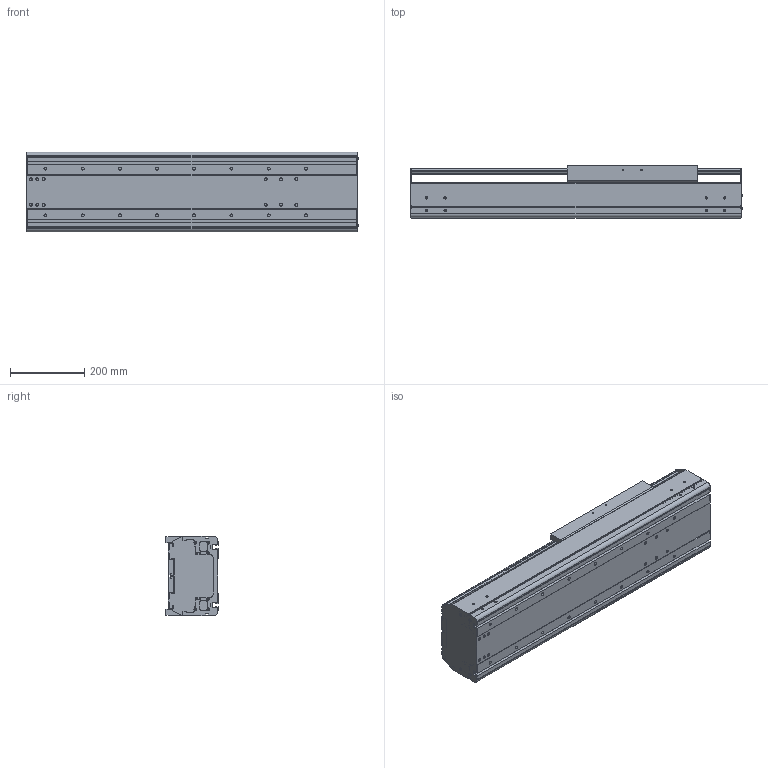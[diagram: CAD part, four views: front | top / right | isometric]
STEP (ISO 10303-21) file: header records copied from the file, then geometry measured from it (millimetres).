
FILE_DESCRIPTION((''),'2;1');
FILE_NAME('BE60J-ST-L_N-35_IGS_PRT','2017-06-18T',(' '),(''),'PRO/ENGINEER BY PARAMETRIC TECHNOLOGY CORPORATION, 2015030','PRO/ENGINEER BY PARAMETRIC TECHNOLOGY CORPORATION, 2015030','');
FILE_SCHEMA(('CONFIG_CONTROL_DESIGN'));
Length unit declared in the file: millimetre
Products named in the file (1): BE60J-ST-L_N-35_IGS_PRT
Bounding box: 892.4 x 140 x 214 mm (x, y, z)
Volume: 7659427.4 mm3; surface area: 2062910.7 mm2
Topology: 2 solids, 124 shells, 1369 faces, 3732 edges, 2486 vertices
Faces by surface type: cylinder 664, plane 571, cone 86, sphere 24, torus 24
Entity records: 44825 total; most frequent: CARTESIAN_POINT 9644, DIRECTION 7452, ORIENTED_EDGE 6924, EDGE_CURVE 3676, AXIS2_PLACEMENT_3D 2764, VERTEX_POINT 2486, VECTOR 1924, LINE 1924
